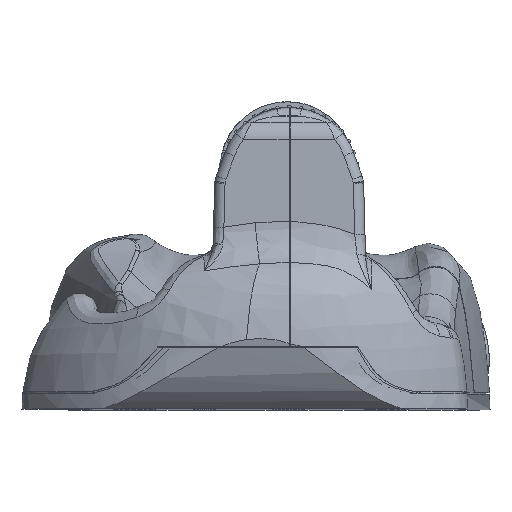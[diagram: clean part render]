
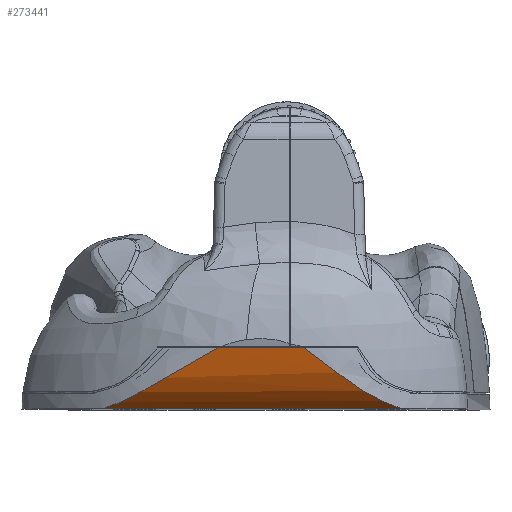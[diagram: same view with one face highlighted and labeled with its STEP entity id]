
A CAD part, top view. The second image highlights one B-rep face of the part: STEP entity #273441.
In plain terms, the highlighted free-form (B-spline) face has degree [3, 1] with [4, 2] control points.
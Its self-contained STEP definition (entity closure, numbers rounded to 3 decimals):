
#704 = CARTESIAN_POINT ( 'NONE',  ( -36.117, -45.084, 48.865 ) ) ;
#882 = VERTEX_POINT ( 'NONE', #704 ) ;
#15431 = CARTESIAN_POINT ( 'NONE',  ( -7.12, -33.306, 56.939 ) ) ;
#32585 = B_SPLINE_CURVE_WITH_KNOTS ( 'NONE', 3,
 ( #304340, #402128, #370218, #78964, #306422, #210744, #355036, #217034, #248898, #59616, #61701, #63803, #346677, #119254, #193509, #323153, #155336, #414684 ),
 .UNSPECIFIED., .F., .F.,
 ( 4, 2, 2, 2, 2, 2, 2, 2, 4 ),
 ( 0., 0.003, 0.007, 0.01, 0.013, 0.017, 0.02, 0.023, 0.027 ),
 .UNSPECIFIED. ) ;
#37262 = CARTESIAN_POINT ( 'NONE',  ( -13.799, -33.306, 56.939 ) ) ;
#42070 = DIRECTION ( 'NONE',  ( 1., 0., 0. ) ) ;
#42649 = CARTESIAN_POINT ( 'NONE',  ( 22.225, -38.77, 55.409 ) ) ;
#48150 = CARTESIAN_POINT ( 'NONE',  ( 16.269, -42.738, 52.247 ) ) ;
#50244 = CARTESIAN_POINT ( 'NONE',  ( 8.476, -37.439, 55.539 ) ) ;
#52664 = EDGE_CURVE ( 'NONE', #171302, #189612, #238682, .T. ) ;
#59616 = CARTESIAN_POINT ( 'NONE',  ( -26.143, -40.349, 54.071 ) ) ;
#61701 = CARTESIAN_POINT ( 'NONE',  ( -27.062, -40.887, 53.728 ) ) ;
#63803 = CARTESIAN_POINT ( 'NONE',  ( -28.89, -41.917, 52.971 ) ) ;
#64616 = EDGE_CURVE ( 'NONE', #189612, #882, #32585, .T. ) ;
#73733 = EDGE_CURVE ( 'NONE', #882, #138898, #199458, .T. ) ;
#75859 = CARTESIAN_POINT ( 'NONE',  ( 21.877, -45.084, 48.865 ) ) ;
#78726 = CARTESIAN_POINT ( 'NONE',  ( -36.465, -33.306, 56.939 ) ) ;
#78964 = CARTESIAN_POINT ( 'NONE',  ( -17.673, -35.432, 56.29 ) ) ;
#91787 = EDGE_LOOP ( 'NONE', ( #370539, #255726, #372121, #237871 ) ) ;
#107802 = CARTESIAN_POINT ( 'NONE',  ( 13.881, -41.358, 53.398 ) ) ;
#110013 = VECTOR ( 'NONE', #42070, 1000. ) ;
#110639 = FACE_OUTER_BOUND ( 'NONE', #91787, .T. ) ;
#114052 = CARTESIAN_POINT ( 'NONE',  ( 18.667, -43.941, 50.961 ) ) ;
#119182 = B_SPLINE_SURFACE_WITH_KNOTS ( 'NONE', 3, 1, ( 
 ( #78726, #308273 ),
 ( #242376, #42649 ),
 ( #401888, #240276 ),
 ( #369977, #372057 ) ),
 .UNSPECIFIED., .F., .F., .F.,
 ( 4, 4 ),
 ( 2, 2 ),
 ( 0.273, 0.729 ),
 ( 0., 1. ),
 .UNSPECIFIED. ) ;
#119254 = CARTESIAN_POINT ( 'NONE',  ( -31.623, -43.326, 51.641 ) ) ;
#138898 = VERTEX_POINT ( 'NONE', #144122 ) ;
#144122 = CARTESIAN_POINT ( 'NONE',  ( 21.877, -45.084, 48.865 ) ) ;
#148065 = CARTESIAN_POINT ( 'NONE',  ( 6.2, -35.597, 56.235 ) ) ;
#149338 = DIRECTION ( 'NONE',  ( -1., 0., 0. ) ) ;
#155336 = CARTESIAN_POINT ( 'NONE',  ( -35.227, -44.816, 49.488 ) ) ;
#171302 = VERTEX_POINT ( 'NONE', #191449 ) ;
#189612 = VERTEX_POINT ( 'NONE', #37262 ) ;
#191449 = CARTESIAN_POINT ( 'NONE',  ( 2.988, -33.306, 56.939 ) ) ;
#193509 = CARTESIAN_POINT ( 'NONE',  ( -32.531, -43.748, 51.143 ) ) ;
#199458 = LINE ( 'NONE', #301422, #110013 ) ;
#210744 = CARTESIAN_POINT ( 'NONE',  ( -20.532, -37.072, 55.687 ) ) ;
#217034 = CARTESIAN_POINT ( 'NONE',  ( -23.362, -38.711, 54.964 ) ) ;
#237871 = ORIENTED_EDGE ( 'NONE', *, *, #335287, .F. ) ;
#238682 = LINE ( 'NONE', #15431, #346915 ) ;
#240276 = CARTESIAN_POINT ( 'NONE',  ( 22.225, -43.246, 53.134 ) ) ;
#241609 = CARTESIAN_POINT ( 'NONE',  ( 15.471, -42.301, 52.647 ) ) ;
#242376 = CARTESIAN_POINT ( 'NONE',  ( -36.465, -38.77, 55.409 ) ) ;
#243697 = CARTESIAN_POINT ( 'NONE',  ( 20.272, -44.601, 49.988 ) ) ;
#248898 = CARTESIAN_POINT ( 'NONE',  ( -24.293, -39.261, 54.689 ) ) ;
#255726 = ORIENTED_EDGE ( 'NONE', *, *, #64616, .T. ) ;
#273441 = ADVANCED_FACE ( 'NONE', ( #110639 ), #119182, .T. ) ;
#275609 = CARTESIAN_POINT ( 'NONE',  ( 10.75, -39.217, 54.711 ) ) ;
#280712 = B_SPLINE_CURVE_WITH_KNOTS ( 'NONE', 3,
 ( #307506, #365043, #303342, #148065, #399060, #50244, #371296, #275609, #367123, #405318, #107802, #241609, #48150, #114052, #243697, #75859 ),
 .UNSPECIFIED., .F., .F.,
 ( 4, 2, 2, 2, 2, 2, 2, 4 ),
 ( 0., 0.003, 0.006, 0.009, 0.012, 0.015, 0.018, 0.024 ),
 .UNSPECIFIED. ) ;
#301422 = CARTESIAN_POINT ( 'NONE',  ( -40.726, -45.084, 48.865 ) ) ;
#303342 = CARTESIAN_POINT ( 'NONE',  ( 4.637, -34.404, 56.622 ) ) ;
#304340 = CARTESIAN_POINT ( 'NONE',  ( -13.799, -33.306, 56.939 ) ) ;
#306422 = CARTESIAN_POINT ( 'NONE',  ( -18.628, -35.98, 56.101 ) ) ;
#307506 = CARTESIAN_POINT ( 'NONE',  ( 2.988, -33.306, 56.939 ) ) ;
#308273 = CARTESIAN_POINT ( 'NONE',  ( 22.225, -33.306, 56.939 ) ) ;
#323153 = CARTESIAN_POINT ( 'NONE',  ( -34.332, -44.492, 50.067 ) ) ;
#335287 = EDGE_CURVE ( 'NONE', #171302, #138898, #280712, .T. ) ;
#346677 = CARTESIAN_POINT ( 'NONE',  ( -29.801, -42.41, 52.556 ) ) ;
#346915 = VECTOR ( 'NONE', #149338, 1000. ) ;
#355036 = CARTESIAN_POINT ( 'NONE',  ( -21.481, -37.618, 55.463 ) ) ;
#365043 = CARTESIAN_POINT ( 'NONE',  ( 3.835, -33.828, 56.793 ) ) ;
#367123 = CARTESIAN_POINT ( 'NONE',  ( 11.521, -39.781, 54.407 ) ) ;
#369977 = CARTESIAN_POINT ( 'NONE',  ( -36.465, -45.084, 48.865 ) ) ;
#370218 = CARTESIAN_POINT ( 'NONE',  ( -15.756, -34.342, 56.64 ) ) ;
#370539 = ORIENTED_EDGE ( 'NONE', *, *, #52664, .T. ) ;
#371296 = CARTESIAN_POINT ( 'NONE',  ( 9.228, -38.046, 55.278 ) ) ;
#372057 = CARTESIAN_POINT ( 'NONE',  ( 22.225, -45.084, 48.865 ) ) ;
#372121 = ORIENTED_EDGE ( 'NONE', *, *, #73733, .T. ) ;
#399060 = CARTESIAN_POINT ( 'NONE',  ( 6.962, -36.214, 56.018 ) ) ;
#401888 = CARTESIAN_POINT ( 'NONE',  ( -36.465, -43.246, 53.134 ) ) ;
#402128 = CARTESIAN_POINT ( 'NONE',  ( -14.79, -33.805, 56.799 ) ) ;
#405318 = CARTESIAN_POINT ( 'NONE',  ( 13.086, -40.851, 53.751 ) ) ;
#414684 = CARTESIAN_POINT ( 'NONE',  ( -36.117, -45.084, 48.865 ) ) ;
